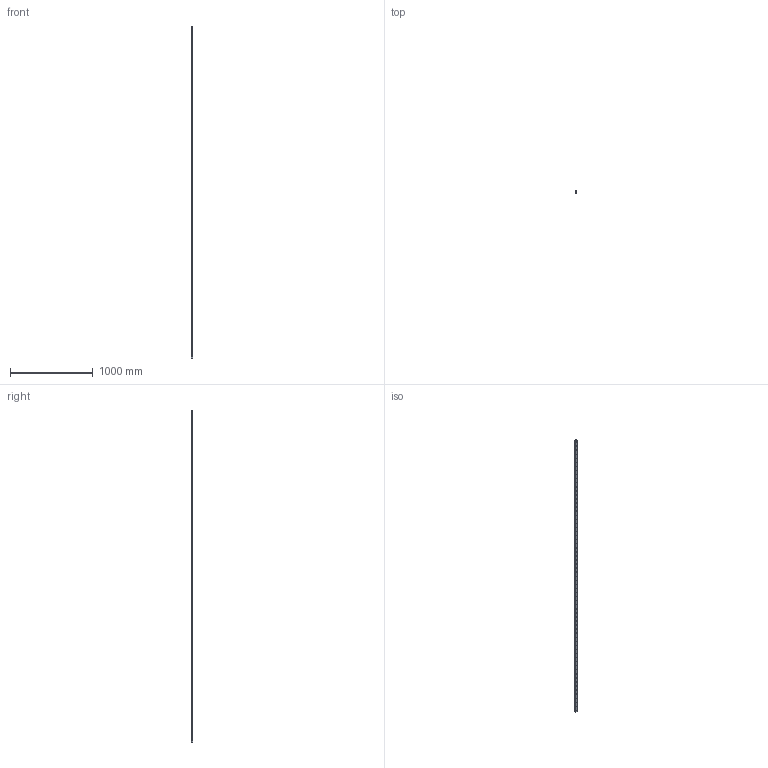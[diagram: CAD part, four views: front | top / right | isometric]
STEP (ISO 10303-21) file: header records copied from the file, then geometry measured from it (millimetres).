
FILE_DESCRIPTION (( 'STEP AP203' ), '1' );
FILE_NAME ('TR20-4000.STEP', '2019-05-29T10:30:13', ( '' ), ( '' ), 'SwSTEP 2.0', 'SolidWorks 2016', '' );
FILE_SCHEMA (( 'CONFIG_CONTROL_DESIGN' ));
Length unit declared in the file: millimetre
Products named in the file (1): TR20-4000
Bounding box: 20 x 17.5 x 4000 mm (x, y, z)
Volume: 1238925.5 mm3; surface area: 321842.9 mm2
Topology: 1 solids, 1 shells, 495 faces, 1238 edges, 745 vertices
Faces by surface type: cylinder 274, cone 134, plane 87
Entity records: 14173 total; most frequent: DIRECTION 2738, CARTESIAN_POINT 2345, ORIENTED_EDGE 2208, AXIS2_PLACEMENT_3D 1138, EDGE_CURVE 1104, VERTEX_POINT 745, CIRCLE 642, EDGE_LOOP 629
